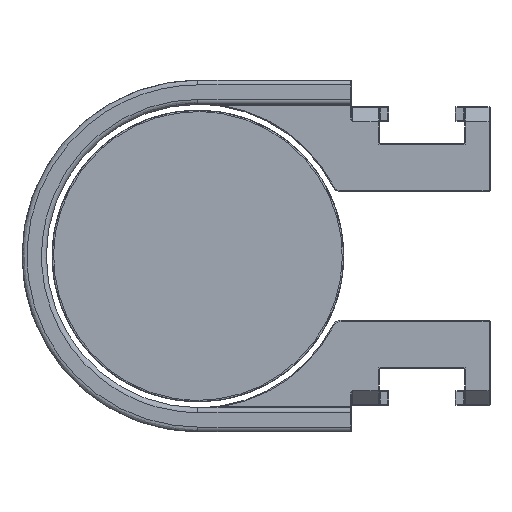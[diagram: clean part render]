
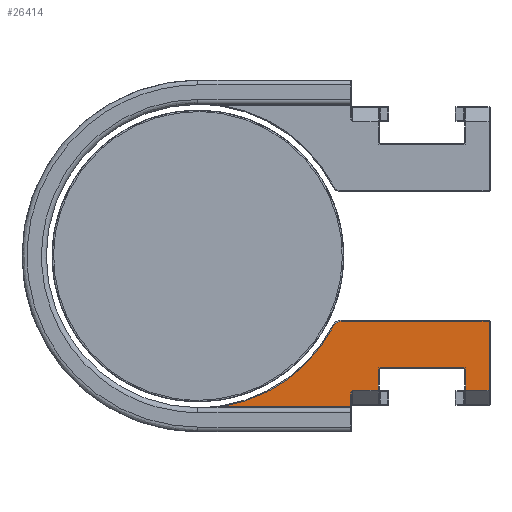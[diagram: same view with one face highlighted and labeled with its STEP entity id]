
A CAD part, left-side view. The second image highlights one B-rep face of the part: STEP entity #26414.
In plain terms, the highlighted planar face has unit normal (-1, 0, 0) as drawn and (0, 0, -1) by its records, which use the part's own axes.
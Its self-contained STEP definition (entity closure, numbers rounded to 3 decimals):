
#582 = VECTOR ( 'NONE', #40316, 1000. ) ;
#1106 = DIRECTION ( 'NONE',  ( 1., 0., 0. ) ) ;
#1933 = CARTESIAN_POINT ( 'NONE',  ( 6.7, -14.758, -13.8 ) ) ;
#2106 = LINE ( 'NONE', #35319, #46393 ) ;
#4372 = CARTESIAN_POINT ( 'NONE',  ( 11.65, -18.55, -13.8 ) ) ;
#5013 = CARTESIAN_POINT ( 'NONE',  ( 14.091, -15.7, -13.8 ) ) ;
#5598 = CARTESIAN_POINT ( 'NONE',  ( 11.45, -18.75, -13.8 ) ) ;
#6567 = VECTOR ( 'NONE', #40304, 1000. ) ;
#6910 = CARTESIAN_POINT ( 'NONE',  ( 11.533, -27.55, -13.8 ) ) ;
#8103 = EDGE_CURVE ( 'NONE', #36140, #58631, #54687, .T. ) ;
#8293 = CARTESIAN_POINT ( 'NONE',  ( 15.5, -15.7, -13.8 ) ) ;
#8876 = CARTESIAN_POINT ( 'NONE',  ( 11.45, -18.633, -13.8 ) ) ;
#9347 = CARTESIAN_POINT ( 'NONE',  ( 7.188, -13.958, -13.8 ) ) ;
#9973 = ORIENTED_EDGE ( 'NONE', *, *, #8103, .F. ) ;
#10629 = EDGE_CURVE ( 'NONE', #56609, #36140, #13587, .T. ) ;
#10794 = VERTEX_POINT ( 'NONE', #47115 ) ;
#10900 = ORIENTED_EDGE ( 'NONE', *, *, #36029, .F. ) ;
#11426 = ORIENTED_EDGE ( 'NONE', *, *, #41256, .F. ) ;
#12308 = EDGE_CURVE ( 'NONE', #22290, #23357, #22960, .T. ) ;
#13587 = B_SPLINE_CURVE_WITH_KNOTS ( 'NONE', 3,
 ( #54632, #13651, #40269, #26505, #36686, #50132 ),
 .UNSPECIFIED., .F., .F.,
 ( 4, 2, 4 ),
 ( 0., 0.5, 1. ),
 .UNSPECIFIED. ) ;
#13651 = CARTESIAN_POINT ( 'NONE',  ( 13.809, -15.847, -13.8 ) ) ;
#14184 = VECTOR ( 'NONE', #51554, 1000. ) ;
#14281 = LINE ( 'NONE', #18759, #6567 ) ;
#14306 = VECTOR ( 'NONE', #59173, 1000. ) ;
#14815 = CARTESIAN_POINT ( 'NONE',  ( 11.45, -18.75, -13.8 ) ) ;
#15029 = CARTESIAN_POINT ( 'NONE',  ( 6.7, -14.758, -13.8 ) ) ;
#15255 = DIRECTION ( 'NONE',  ( -1., 0., 0. ) ) ;
#17438 = ORIENTED_EDGE ( 'NONE', *, *, #39742, .F. ) ;
#17579 = DIRECTION ( 'NONE',  ( 0., 0., 1. ) ) ;
#18447 = VERTEX_POINT ( 'NONE', #33346 ) ;
#18537 = AXIS2_PLACEMENT_3D ( 'NONE', #58562, #17579, #1106 ) ;
#18587 = VERTEX_POINT ( 'NONE', #27018 ) ;
#18759 = CARTESIAN_POINT ( 'NONE',  ( 13.809, 0., -13.8 ) ) ;
#19313 = CARTESIAN_POINT ( 'NONE',  ( 7.188, -13.958, -13.8 ) ) ;
#19675 = EDGE_CURVE ( 'NONE', #28686, #56609, #2106, .T. ) ;
#19996 = CARTESIAN_POINT ( 'NONE',  ( 11.45, 0., -13.8 ) ) ;
#20325 = VECTOR ( 'NONE', #29031, 1000. ) ;
#21687 = EDGE_CURVE ( 'NONE', #52636, #18587, #21915, .T. ) ;
#21915 =( BOUNDED_CURVE ( )  B_SPLINE_CURVE ( 3, ( #51503, #6910, #25166, #28471 ),
 .UNSPECIFIED., .F., .F. ) 
 B_SPLINE_CURVE_WITH_KNOTS ( ( 4, 4 ),
 ( 0., 1. ),
 .UNSPECIFIED. ) 
 CURVE ( )  GEOMETRIC_REPRESENTATION_ITEM ( )  RATIONAL_B_SPLINE_CURVE ( ( 1., 0.805, 0.805, 1. ) ) 
 REPRESENTATION_ITEM ( '' )  );
#22290 = VERTEX_POINT ( 'NONE', #5598 ) ;
#22803 = CARTESIAN_POINT ( 'NONE',  ( 15.5, -2.498, -13.8 ) ) ;
#22960 =( BOUNDED_CURVE ( )  B_SPLINE_CURVE ( 3, ( #14815, #8876, #41180, #4372 ),
 .UNSPECIFIED., .F., .F. ) 
 B_SPLINE_CURVE_WITH_KNOTS ( ( 4, 4 ),
 ( 0., 1. ),
 .UNSPECIFIED. ) 
 CURVE ( )  GEOMETRIC_REPRESENTATION_ITEM ( )  RATIONAL_B_SPLINE_CURVE ( ( 1., 0.805, 0.805, 1. ) ) 
 REPRESENTATION_ITEM ( '' )  );
#23357 = VERTEX_POINT ( 'NONE', #32831 ) ;
#23723 = CARTESIAN_POINT ( 'NONE',  ( 6.7, -14.412, -13.8 ) ) ;
#23799 = EDGE_CURVE ( 'NONE', #45806, #29689, #30294, .T. ) ;
#24985 = CARTESIAN_POINT ( 'NONE',  ( 13.809, -18.55, -13.8 ) ) ;
#25166 = CARTESIAN_POINT ( 'NONE',  ( 11.45, -27.467, -13.8 ) ) ;
#25351 = ORIENTED_EDGE ( 'NONE', *, *, #21687, .F. ) ;
#26414 = ADVANCED_FACE ( 'NONE', ( #26574 ), #44822, .F. ) ;
#26503 = VECTOR ( 'NONE', #55914, 1000. ) ;
#26505 = CARTESIAN_POINT ( 'NONE',  ( 13.944, -15.722, -13.8 ) ) ;
#26574 = FACE_OUTER_BOUND ( 'NONE', #51013, .T. ) ;
#27018 = CARTESIAN_POINT ( 'NONE',  ( 11.45, -27.35, -13.8 ) ) ;
#28224 = CARTESIAN_POINT ( 'NONE',  ( 15.5, 0., -13.8 ) ) ;
#28471 = CARTESIAN_POINT ( 'NONE',  ( 11.45, -27.35, -13.8 ) ) ;
#28521 = LINE ( 'NONE', #28224, #14184 ) ;
#28686 = VERTEX_POINT ( 'NONE', #24985 ) ;
#29031 = DIRECTION ( 'NONE',  ( 1., 0., 0. ) ) ;
#29689 = VERTEX_POINT ( 'NONE', #1933 ) ;
#30217 = LINE ( 'NONE', #51768, #20325 ) ;
#30294 =( BOUNDED_CURVE ( )  B_SPLINE_CURVE ( 3, ( #42552, #50936, #23723, #15029 ),
 .UNSPECIFIED., .F., .F. ) 
 B_SPLINE_CURVE_WITH_KNOTS ( ( 4, 4 ),
 ( 0., 1. ),
 .UNSPECIFIED. ) 
 CURVE ( )  GEOMETRIC_REPRESENTATION_ITEM ( )  RATIONAL_B_SPLINE_CURVE ( ( 1., 0.903, 0.903, 1. ) ) 
 REPRESENTATION_ITEM ( '' )  );
#30790 = EDGE_CURVE ( 'NONE', #23357, #28686, #46349, .T. ) ;
#30833 = ORIENTED_EDGE ( 'NONE', *, *, #10629, .F. ) ;
#32068 = CARTESIAN_POINT ( 'NONE',  ( 14.691, -7.516, -13.8 ) ) ;
#32831 = CARTESIAN_POINT ( 'NONE',  ( 11.65, -18.55, -13.8 ) ) ;
#33346 = CARTESIAN_POINT ( 'NONE',  ( 6.7, -29.95, -13.8 ) ) ;
#35319 = CARTESIAN_POINT ( 'NONE',  ( 13.809, 0., -13.8 ) ) ;
#36029 = EDGE_CURVE ( 'NONE', #29689, #18447, #44811, .T. ) ;
#36140 = VERTEX_POINT ( 'NONE', #5013 ) ;
#36152 = CARTESIAN_POINT ( 'NONE',  ( 6.7, 0., -13.8 ) ) ;
#36686 = CARTESIAN_POINT ( 'NONE',  ( 14.017, -15.7, -13.8 ) ) ;
#36797 = CARTESIAN_POINT ( 'NONE',  ( 0., -18.55, -13.8 ) ) ;
#38242 = DIRECTION ( 'NONE',  ( 0., 1., 0. ) ) ;
#39363 =( BOUNDED_CURVE ( )  B_SPLINE_CURVE ( 3, ( #22803, #32068, #50309, #9347 ),
 .UNSPECIFIED., .F., .T. ) 
 B_SPLINE_CURVE_WITH_KNOTS ( ( 4, 4 ),
 ( 0., 1. ),
 .UNSPECIFIED. ) 
 CURVE ( )  GEOMETRIC_REPRESENTATION_ITEM ( )  RATIONAL_B_SPLINE_CURVE ( ( 1., 0.928, 0.928, 1. ) ) 
 REPRESENTATION_ITEM ( '' )  );
#39742 = EDGE_CURVE ( 'NONE', #59108, #45806, #39363, .T. ) ;
#40269 = CARTESIAN_POINT ( 'NONE',  ( 13.839, -15.796, -13.8 ) ) ;
#40304 = DIRECTION ( 'NONE',  ( 0., 1., 0. ) ) ;
#40316 = DIRECTION ( 'NONE',  ( 1., 0., 0. ) ) ;
#40974 = CARTESIAN_POINT ( 'NONE',  ( 13.809, -29.95, -13.8 ) ) ;
#41048 = EDGE_CURVE ( 'NONE', #18587, #22290, #47505, .T. ) ;
#41180 = CARTESIAN_POINT ( 'NONE',  ( 11.533, -18.55, -13.8 ) ) ;
#41256 = EDGE_CURVE ( 'NONE', #43352, #10794, #14281, .T. ) ;
#41986 = ORIENTED_EDGE ( 'NONE', *, *, #51758, .F. ) ;
#42552 = CARTESIAN_POINT ( 'NONE',  ( 7.188, -13.958, -13.8 ) ) ;
#43352 = VERTEX_POINT ( 'NONE', #40974 ) ;
#43360 = LINE ( 'NONE', #47841, #48498 ) ;
#43669 = ORIENTED_EDGE ( 'NONE', *, *, #47086, .F. ) ;
#44811 = LINE ( 'NONE', #36152, #14306 ) ;
#44822 = PLANE ( 'NONE',  #18537 ) ;
#45806 = VERTEX_POINT ( 'NONE', #19313 ) ;
#46349 = LINE ( 'NONE', #36797, #26503 ) ;
#46393 = VECTOR ( 'NONE', #58023, 1000. ) ;
#46665 = VECTOR ( 'NONE', #38242, 1000. ) ;
#47086 = EDGE_CURVE ( 'NONE', #18447, #43352, #30217, .T. ) ;
#47115 = CARTESIAN_POINT ( 'NONE',  ( 13.809, -27.55, -13.8 ) ) ;
#47505 = LINE ( 'NONE', #19996, #46665 ) ;
#47841 = CARTESIAN_POINT ( 'NONE',  ( 0., -27.55, -13.8 ) ) ;
#48498 = VECTOR ( 'NONE', #15255, 1000. ) ;
#49200 = ORIENTED_EDGE ( 'NONE', *, *, #53491, .T. ) ;
#49552 = CARTESIAN_POINT ( 'NONE',  ( 13.809, -15.9, -13.8 ) ) ;
#49891 = CARTESIAN_POINT ( 'NONE',  ( 0., -15.7, -13.8 ) ) ;
#50132 = CARTESIAN_POINT ( 'NONE',  ( 14.091, -15.7, -13.8 ) ) ;
#50182 = ORIENTED_EDGE ( 'NONE', *, *, #41048, .F. ) ;
#50309 = CARTESIAN_POINT ( 'NONE',  ( 11.707, -11.631, -13.8 ) ) ;
#50827 = ORIENTED_EDGE ( 'NONE', *, *, #19675, .F. ) ;
#50936 = CARTESIAN_POINT ( 'NONE',  ( 6.88, -14.116, -13.8 ) ) ;
#51013 = EDGE_LOOP ( 'NONE', ( #50827, #56964, #51713, #50182, #25351, #41986, #11426, #43669, #10900, #58357, #17438, #49200, #9973, #30833 ) ) ;
#51503 = CARTESIAN_POINT ( 'NONE',  ( 11.65, -27.55, -13.8 ) ) ;
#51554 = DIRECTION ( 'NONE',  ( 0., -1., 0. ) ) ;
#51713 = ORIENTED_EDGE ( 'NONE', *, *, #12308, .F. ) ;
#51758 = EDGE_CURVE ( 'NONE', #10794, #52636, #43360, .T. ) ;
#51768 = CARTESIAN_POINT ( 'NONE',  ( 0., -29.95, -13.8 ) ) ;
#52367 = CARTESIAN_POINT ( 'NONE',  ( 15.5, -2.498, -13.8 ) ) ;
#52636 = VERTEX_POINT ( 'NONE', #55082 ) ;
#53491 = EDGE_CURVE ( 'NONE', #59108, #58631, #28521, .T. ) ;
#54632 = CARTESIAN_POINT ( 'NONE',  ( 13.809, -15.9, -13.8 ) ) ;
#54687 = LINE ( 'NONE', #49891, #582 ) ;
#55082 = CARTESIAN_POINT ( 'NONE',  ( 11.65, -27.55, -13.8 ) ) ;
#55914 = DIRECTION ( 'NONE',  ( 1., 0., 0. ) ) ;
#56609 = VERTEX_POINT ( 'NONE', #49552 ) ;
#56964 = ORIENTED_EDGE ( 'NONE', *, *, #30790, .F. ) ;
#58023 = DIRECTION ( 'NONE',  ( 0., 1., 0. ) ) ;
#58357 = ORIENTED_EDGE ( 'NONE', *, *, #23799, .F. ) ;
#58562 = CARTESIAN_POINT ( 'NONE',  ( 0., 0., -13.8 ) ) ;
#58631 = VERTEX_POINT ( 'NONE', #8293 ) ;
#59108 = VERTEX_POINT ( 'NONE', #52367 ) ;
#59173 = DIRECTION ( 'NONE',  ( 0., -1., 0. ) ) ;
